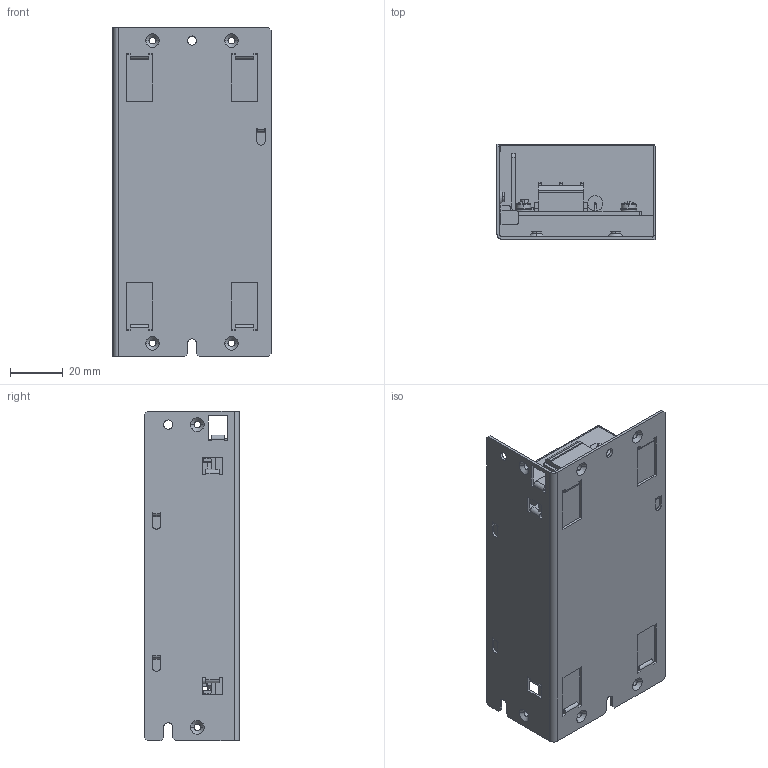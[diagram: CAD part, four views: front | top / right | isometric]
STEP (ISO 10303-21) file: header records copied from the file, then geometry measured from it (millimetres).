
FILE_DESCRIPTION (( 'STEP AP214' ), '1' );
FILE_NAME ('zws30b_a_outline.STEP', '2015-05-08T01:07:43', ( 'tluser' ), ( '' ), 'SwSTEP 2.0', 'SolidWorks 2013', '' );
FILE_SCHEMA (( 'AUTOMOTIVE_DESIGN' ));
Length unit declared in the file: millimetre
Products named in the file (1): zws30b_a_outline
Bounding box: 60 x 36 x 125 mm (x, y, z)
Volume: 184353.4 mm3; surface area: 31501 mm2
Topology: 1 solids, 1 shells, 660 faces, 1753 edges, 1107 vertices
Faces by surface type: plane 417, cylinder 153, cone 66, bspline 24
Entity records: 28170 total; most frequent: CARTESIAN_POINT 4335, ORIENTED_EDGE 3490, DIRECTION 3420, EDGE_CURVE 1745, AXIS2_PLACEMENT_3D 1144, LINE 1132, VECTOR 1132, VERTEX_POINT 1107
